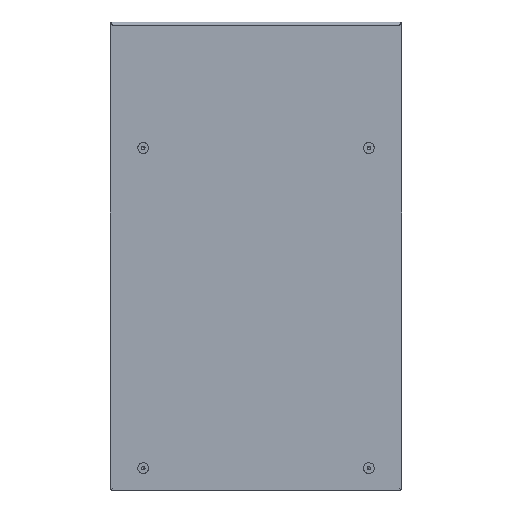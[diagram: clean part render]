
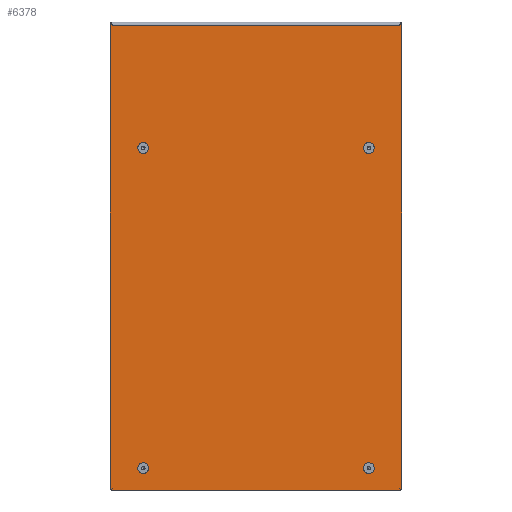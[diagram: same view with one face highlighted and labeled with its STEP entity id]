
A CAD part, left-side view. The second image highlights one B-rep face of the part: STEP entity #6378.
In plain terms, the highlighted planar face has unit normal (-1, 0, 0).
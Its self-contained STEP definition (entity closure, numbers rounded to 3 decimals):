
#220=CIRCLE('',#8176,5.125);
#221=CIRCLE('',#8177,5.125);
#222=CIRCLE('',#8178,5.125);
#223=CIRCLE('',#8179,5.125);
#515=B_SPLINE_CURVE_WITH_KNOTS('',3,(#10962,#10963,#10964,#10965,#10966),
 .UNSPECIFIED.,.F.,.F.,(4,1,4),(0.007,0.009,
0.01),.UNSPECIFIED.);
#516=B_SPLINE_CURVE_WITH_KNOTS('',3,(#10970,#10971,#10972,#10973,#10974),
 .UNSPECIFIED.,.F.,.F.,(4,1,4),(0.007,0.009,
0.01),.UNSPECIFIED.);
#750=ORIENTED_EDGE('',*,*,#2519,.F.);
#751=ORIENTED_EDGE('',*,*,#2520,.F.);
#752=ORIENTED_EDGE('',*,*,#2521,.F.);
#753=ORIENTED_EDGE('',*,*,#2522,.F.);
#754=ORIENTED_EDGE('',*,*,#2514,.F.);
#755=ORIENTED_EDGE('',*,*,#2511,.T.);
#756=ORIENTED_EDGE('',*,*,#2523,.T.);
#757=ORIENTED_EDGE('',*,*,#2524,.F.);
#758=ORIENTED_EDGE('',*,*,#2476,.F.);
#759=ORIENTED_EDGE('',*,*,#2489,.T.);
#760=ORIENTED_EDGE('',*,*,#2525,.F.);
#761=ORIENTED_EDGE('',*,*,#2526,.T.);
#762=ORIENTED_EDGE('',*,*,#2527,.T.);
#763=ORIENTED_EDGE('',*,*,#2528,.T.);
#764=ORIENTED_EDGE('',*,*,#2529,.T.);
#765=ORIENTED_EDGE('',*,*,#2530,.T.);
#766=ORIENTED_EDGE('',*,*,#2531,.T.);
#767=ORIENTED_EDGE('',*,*,#2532,.F.);
#2476=EDGE_CURVE('',#3360,#3361,#3979,.T.);
#2489=EDGE_CURVE('',#3360,#3371,#3988,.T.);
#2511=EDGE_CURVE('',#3391,#3390,#4005,.T.);
#2514=EDGE_CURVE('',#3391,#3393,#4008,.T.);
#2519=EDGE_CURVE('',#3397,#3397,#220,.T.);
#2520=EDGE_CURVE('',#3398,#3398,#221,.T.);
#2521=EDGE_CURVE('',#3399,#3399,#222,.T.);
#2522=EDGE_CURVE('',#3400,#3400,#223,.T.);
#2523=EDGE_CURVE('',#3390,#3401,#4011,.T.);
#2524=EDGE_CURVE('',#3361,#3401,#4012,.F.);
#2525=EDGE_CURVE('',#3402,#3371,#515,.F.);
#2526=EDGE_CURVE('',#3402,#3403,#4013,.T.);
#2527=EDGE_CURVE('',#3403,#3404,#516,.F.);
#2528=EDGE_CURVE('',#3404,#3405,#4014,.T.);
#2529=EDGE_CURVE('',#3405,#3406,#4015,.F.);
#2530=EDGE_CURVE('',#3406,#3407,#4016,.T.);
#2531=EDGE_CURVE('',#3407,#3408,#4017,.T.);
#2532=EDGE_CURVE('',#3393,#3408,#4018,.T.);
#3360=VERTEX_POINT('',#10849);
#3361=VERTEX_POINT('',#10851);
#3371=VERTEX_POINT('',#10883);
#3390=VERTEX_POINT('',#10928);
#3391=VERTEX_POINT('',#10930);
#3393=VERTEX_POINT('',#10936);
#3397=VERTEX_POINT('',#10952);
#3398=VERTEX_POINT('',#10954);
#3399=VERTEX_POINT('',#10956);
#3400=VERTEX_POINT('',#10958);
#3401=VERTEX_POINT('',#10960);
#3402=VERTEX_POINT('',#10967);
#3403=VERTEX_POINT('',#10969);
#3404=VERTEX_POINT('',#10975);
#3405=VERTEX_POINT('',#10977);
#3406=VERTEX_POINT('',#10979);
#3407=VERTEX_POINT('',#10981);
#3408=VERTEX_POINT('',#10983);
#3979=LINE('',#10850,#4615);
#3988=LINE('',#10884,#4624);
#4005=LINE('',#10929,#4641);
#4008=LINE('',#10935,#4644);
#4011=LINE('',#10959,#4647);
#4012=LINE('',#10961,#4648);
#4013=LINE('',#10968,#4649);
#4014=LINE('',#10976,#4650);
#4015=LINE('',#10978,#4651);
#4016=LINE('',#10980,#4652);
#4017=LINE('',#10982,#4653);
#4018=LINE('',#10984,#4654);
#4615=VECTOR('',#8907,1000.);
#4624=VECTOR('',#8920,1000.);
#4641=VECTOR('',#8955,1000.);
#4644=VECTOR('',#8960,1000.);
#4647=VECTOR('',#8973,1000.);
#4648=VECTOR('',#8974,1000.);
#4649=VECTOR('',#8975,1000.);
#4650=VECTOR('',#8976,1000.);
#4651=VECTOR('',#8977,1000.);
#4652=VECTOR('',#8978,1000.);
#4653=VECTOR('',#8979,1000.);
#4654=VECTOR('',#8980,1000.);
#5185=EDGE_LOOP('',(#750));
#5186=EDGE_LOOP('',(#751));
#5187=EDGE_LOOP('',(#752));
#5188=EDGE_LOOP('',(#753));
#5189=EDGE_LOOP('',(#754,#755,#756,#757,#758,#759,#760,#761,#762,#763,#764,
#765,#766,#767));
#5653=FACE_BOUND('',#5185,.T.);
#5654=FACE_BOUND('',#5186,.T.);
#5655=FACE_BOUND('',#5187,.T.);
#5656=FACE_BOUND('',#5188,.T.);
#5657=FACE_BOUND('',#5189,.T.);
#6118=PLANE('',#8175);
#6378=ADVANCED_FACE('',(#5653,#5654,#5655,#5656,#5657),#6118,.T.);
#8175=AXIS2_PLACEMENT_3D('',#10950,#8963,#8964);
#8176=AXIS2_PLACEMENT_3D('',#10951,#8965,#8966);
#8177=AXIS2_PLACEMENT_3D('',#10953,#8967,#8968);
#8178=AXIS2_PLACEMENT_3D('',#10955,#8969,#8970);
#8179=AXIS2_PLACEMENT_3D('',#10957,#8971,#8972);
#8907=DIRECTION('',(0.,1.,0.));
#8920=DIRECTION('',(0.,0.,1.));
#8955=DIRECTION('',(0.,0.,1.));
#8960=DIRECTION('',(0.,1.,0.));
#8963=DIRECTION('',(-1.,0.,0.));
#8964=DIRECTION('',(0.,-1.,0.));
#8965=DIRECTION('',(-1.,0.,0.));
#8966=DIRECTION('',(0.,-1.,0.));
#8967=DIRECTION('',(-1.,0.,0.));
#8968=DIRECTION('',(0.,-1.,0.));
#8969=DIRECTION('',(-1.,0.,0.));
#8970=DIRECTION('',(0.,-1.,0.));
#8971=DIRECTION('',(-1.,0.,0.));
#8972=DIRECTION('',(0.,-1.,0.));
#8973=DIRECTION('',(0.,0.707,0.708));
#8974=DIRECTION('',(0.,-0.708,-0.707));
#8975=DIRECTION('',(0.,1.,0.));
#8976=DIRECTION('',(0.,0.,-1.));
#8977=DIRECTION('',(0.,1.,0.));
#8978=DIRECTION('',(0.,-0.708,0.707));
#8979=DIRECTION('',(0.,0.707,-0.708));
#8980=DIRECTION('',(0.,0.,1.));
#10849=CARTESIAN_POINT('',(-1.2,-100.6,-321.423));
#10850=CARTESIAN_POINT('',(-1.2,0.,-321.423));
#10851=CARTESIAN_POINT('',(-1.2,-99.4,-321.423));
#10883=CARTESIAN_POINT('',(-1.2,-100.6,317.793));
#10884=CARTESIAN_POINT('',(-1.2,-100.6,0.));
#10928=CARTESIAN_POINT('',(-1.2,-99.398,-321.425));
#10929=CARTESIAN_POINT('',(-1.2,-99.398,0.));
#10930=CARTESIAN_POINT('',(-1.2,-99.398,-322.625));
#10935=CARTESIAN_POINT('',(-1.2,0.,-322.625));
#10936=CARTESIAN_POINT('',(-1.2,298.198,-322.625));
#10950=CARTESIAN_POINT('',(-1.2,0.,0.));
#10951=CARTESIAN_POINT('',(-1.2,254.4,-292.625));
#10952=CARTESIAN_POINT('',(-1.2,249.275,-292.625));
#10953=CARTESIAN_POINT('',(-1.2,-55.6,-292.625));
#10954=CARTESIAN_POINT('',(-1.2,-60.725,-292.625));
#10955=CARTESIAN_POINT('',(-1.2,-55.6,147.37));
#10956=CARTESIAN_POINT('',(-1.2,-60.725,147.37));
#10957=CARTESIAN_POINT('',(-1.2,254.4,147.37));
#10958=CARTESIAN_POINT('',(-1.2,249.275,147.37));
#10959=CARTESIAN_POINT('',(-1.2,110.937,-110.766));
#10960=CARTESIAN_POINT('',(-1.2,-98.1,-320.125));
#10961=CARTESIAN_POINT('',(-1.2,609.551,386.437));
#10962=CARTESIAN_POINT('',(-1.2,-100.6,317.793));
#10963=CARTESIAN_POINT('',(-1.2,-100.116,317.658));
#10964=CARTESIAN_POINT('',(-1.2,-99.194,317.288));
#10965=CARTESIAN_POINT('',(-1.2,-98.429,316.608));
#10966=CARTESIAN_POINT('',(-1.2,-98.1,316.229));
#10967=CARTESIAN_POINT('',(-1.2,-98.1,316.229));
#10968=CARTESIAN_POINT('',(-1.2,0.,316.229));
#10969=CARTESIAN_POINT('',(-1.2,296.9,316.229));
#10970=CARTESIAN_POINT('',(-1.2,299.4,317.793));
#10971=CARTESIAN_POINT('',(-1.2,298.918,317.659));
#10972=CARTESIAN_POINT('',(-1.2,297.978,317.278));
#10973=CARTESIAN_POINT('',(-1.2,297.229,316.608));
#10974=CARTESIAN_POINT('',(-1.2,296.9,316.229));
#10975=CARTESIAN_POINT('',(-1.2,299.4,317.793));
#10976=CARTESIAN_POINT('',(-1.2,299.4,0.));
#10977=CARTESIAN_POINT('',(-1.2,299.4,-321.423));
#10978=CARTESIAN_POINT('',(-1.2,0.,-321.423));
#10979=CARTESIAN_POINT('',(-1.2,298.2,-321.423));
#10980=CARTESIAN_POINT('',(-1.2,-410.751,386.437));
#10981=CARTESIAN_POINT('',(-1.2,296.9,-320.125));
#10982=CARTESIAN_POINT('',(-1.2,-11.384,-11.366));
#10983=CARTESIAN_POINT('',(-1.2,298.198,-321.425));
#10984=CARTESIAN_POINT('',(-1.2,298.198,-321.425));
